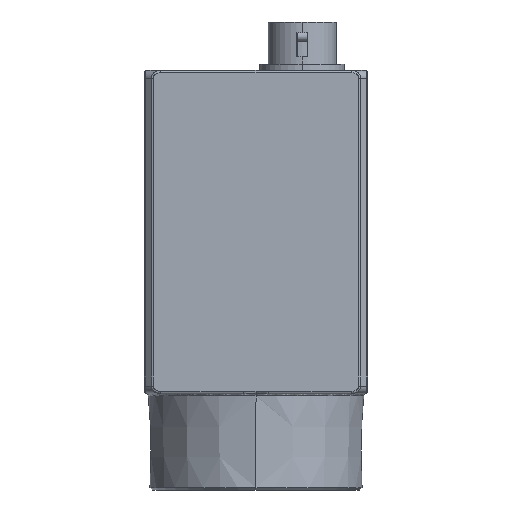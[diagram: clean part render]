
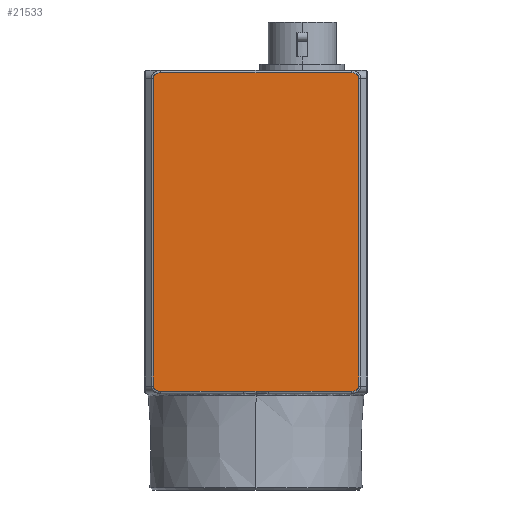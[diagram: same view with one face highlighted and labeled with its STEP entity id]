
A CAD part, left-side view. The second image highlights one B-rep face of the part: STEP entity #21533.
In plain terms, the highlighted planar face has unit normal (-1, 0, 0).
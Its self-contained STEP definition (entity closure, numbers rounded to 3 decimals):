
#625=CARTESIAN_POINT('',(-14.5,0.,
-5.205));
#626=CARTESIAN_POINT('',(-14.5,0.547,
-5.205));
#627=CARTESIAN_POINT('',(-14.5,1.095,-5.202));
#628=CARTESIAN_POINT('',(-14.5,1.644,-5.202));
#630=DIRECTION('',(0.,1.,0.));
#631=VECTOR('',#630,10.742);
#632=CARTESIAN_POINT('',(-14.5,1.644,-5.202));
#633=LINE('',#632,#631);
#634=DIRECTION('',(0.,0.,1.));
#635=VECTOR('',#634,40.);
#636=CARTESIAN_POINT('',(-14.5,13.376,-4.5));
#637=LINE('',#636,#635);
#638=CARTESIAN_POINT('',(-14.5,13.376,35.5));
#639=CARTESIAN_POINT('',(-14.5,13.375,35.573));
#640=CARTESIAN_POINT('',(-14.5,13.345,35.712));
#641=CARTESIAN_POINT('',(-14.5,13.204,35.915));
#642=CARTESIAN_POINT('',(-14.5,12.995,36.065));
#643=CARTESIAN_POINT('',(-14.5,12.72,36.173));
#644=CARTESIAN_POINT('',(-14.5,12.503,36.198));
#645=CARTESIAN_POINT('',(-14.5,12.386,36.2));
#647=DIRECTION('',(0.,-1.,0.));
#648=VECTOR('',#647,24.772);
#649=CARTESIAN_POINT('',(-14.5,12.386,36.2));
#650=LINE('',#649,#648);
#651=CARTESIAN_POINT('',(-14.5,-12.386,36.2));
#652=CARTESIAN_POINT('',(-14.5,-12.503,36.198));
#653=CARTESIAN_POINT('',(-14.5,-12.719,36.173));
#654=CARTESIAN_POINT('',(-14.5,-12.998,36.063));
#655=CARTESIAN_POINT('',(-14.5,-13.209,35.91));
#656=CARTESIAN_POINT('',(-14.5,-13.348,35.704));
#657=CARTESIAN_POINT('',(-14.5,-13.376,35.57));
#658=CARTESIAN_POINT('',(-14.5,-13.376,35.5));
#671=CARTESIAN_POINT('',(-14.5,0.,
-5.205));
#672=CARTESIAN_POINT('',(-14.5,-0.194,
-5.205));
#673=CARTESIAN_POINT('',(-14.5,-0.575,
-5.203));
#674=CARTESIAN_POINT('',(-14.5,-1.101,
-5.205));
#675=CARTESIAN_POINT('',(-14.5,-1.463,
-5.201));
#676=CARTESIAN_POINT('',(-14.5,-1.644,
-5.201));
#683=DIRECTION('',(0.,-1.,0.));
#684=VECTOR('',#683,10.742);
#685=CARTESIAN_POINT('',(-14.5,-1.644,
-5.201));
#686=LINE('',#685,#684);
#732=CARTESIAN_POINT('',(-14.5,-12.386,
-5.2));
#733=CARTESIAN_POINT('',(-14.5,-12.504,
-5.198));
#734=CARTESIAN_POINT('',(-14.5,-12.721,
-5.173));
#735=CARTESIAN_POINT('',(-14.5,-13.001,
-5.062));
#736=CARTESIAN_POINT('',(-14.5,-13.211,
-4.908));
#737=CARTESIAN_POINT('',(-14.5,-13.349,
-4.702));
#738=CARTESIAN_POINT('',(-14.5,-13.376,-4.569));
#739=CARTESIAN_POINT('',(-14.5,-13.376,-4.5));
#746=DIRECTION('',(0.,0.,1.));
#747=VECTOR('',#746,40.);
#748=CARTESIAN_POINT('',(-14.5,-13.376,-4.5));
#749=LINE('',#748,#747);
#1344=CARTESIAN_POINT('',(-14.5,13.376,-4.5));
#1345=CARTESIAN_POINT('',(-14.5,13.377,-4.568));
#1346=CARTESIAN_POINT('',(-14.5,13.349,-4.701));
#1347=CARTESIAN_POINT('',(-14.5,13.213,-4.906));
#1348=CARTESIAN_POINT('',(-14.5,13.003,-5.061));
#1349=CARTESIAN_POINT('',(-14.5,12.722,-5.173));
#1350=CARTESIAN_POINT('',(-14.5,12.504,-5.198));
#1351=CARTESIAN_POINT('',(-14.5,12.386,-5.2));
#15700=CARTESIAN_POINT('',(-14.5,12.386,36.2));
#15701=VERTEX_POINT('',#15700);
#15702=CARTESIAN_POINT('',(-14.5,13.376,
35.5));
#15703=VERTEX_POINT('',#15702);
#15704=CARTESIAN_POINT('',(-14.5,-12.386,36.2));
#15705=VERTEX_POINT('',#15704);
#15707=CARTESIAN_POINT('',(-14.5,-13.376,35.5));
#15708=VERTEX_POINT('',#15707);
#15751=CARTESIAN_POINT('',(-14.5,1.644,
-5.2));
#15752=VERTEX_POINT('',#15751);
#15753=VERTEX_POINT('',#625);
#15756=CARTESIAN_POINT('',(-14.5,12.386,-5.2));
#15757=VERTEX_POINT('',#15756);
#15768=CARTESIAN_POINT('',(-14.5,13.376,-4.5));
#15769=VERTEX_POINT('',#15768);
#15770=VERTEX_POINT('',#732);
#15771=VERTEX_POINT('',#739);
#15772=VERTEX_POINT('',#676);
#21510=CARTESIAN_POINT('',(-14.5,0.,15.498));
#21511=DIRECTION('',(1.,0.,0.));
#21512=DIRECTION('',(0.,-1.,0.));
#21513=AXIS2_PLACEMENT_3D('',#21510,#21511,#21512);
#21514=PLANE('',#21513);
#21516=ORIENTED_EDGE('',*,*,#21515,.F.);
#21517=ORIENTED_EDGE('',*,*,#21357,.T.);
#21518=ORIENTED_EDGE('',*,*,#21373,.T.);
#21520=ORIENTED_EDGE('',*,*,#21519,.F.);
#21521=ORIENTED_EDGE('',*,*,#21503,.T.);
#21522=ORIENTED_EDGE('',*,*,#20836,.T.);
#21523=ORIENTED_EDGE('',*,*,#20851,.T.);
#21524=ORIENTED_EDGE('',*,*,#20910,.T.);
#21526=ORIENTED_EDGE('',*,*,#21525,.F.);
#21528=ORIENTED_EDGE('',*,*,#21527,.F.);
#21530=ORIENTED_EDGE('',*,*,#21529,.F.);
#21531=EDGE_LOOP('',(#21516,#21517,#21518,#21520,#21521,#21522,#21523,#21524,
#21526,#21528,#21530));
#21532=FACE_OUTER_BOUND('',#21531,.F.);
#21533=ADVANCED_FACE('',(#21532),#21514,.F.);
#629=B_SPLINE_CURVE_WITH_KNOTS('',3,(#625,#626,#627,#628),.UNSPECIFIED.,.F.,.F.,
(4,4),(0.,1.),.UNSPECIFIED.);
#646=B_SPLINE_CURVE_WITH_KNOTS('',3,(#638,#639,#640,#641,#642,#643,#644,#645),
.UNSPECIFIED.,.F.,.F.,(4,1,1,1,1,4),(0.,0.2,0.4,0.6,0.8,1.),
.UNSPECIFIED.);
#659=B_SPLINE_CURVE_WITH_KNOTS('',3,(#651,#652,#653,#654,#655,#656,#657,#658),
.UNSPECIFIED.,.F.,.F.,(4,1,1,1,1,4),(0.,0.2,0.4,0.6,0.8,1.),
.UNSPECIFIED.);
#677=B_SPLINE_CURVE_WITH_KNOTS('',3,(#671,#672,#673,#674,#675,#676),
.UNSPECIFIED.,.F.,.F.,(4,1,1,4),(0.,0.333,0.667,1.),
.UNSPECIFIED.);
#740=B_SPLINE_CURVE_WITH_KNOTS('',3,(#732,#733,#734,#735,#736,#737,#738,#739),
.UNSPECIFIED.,.F.,.F.,(4,1,1,1,1,4),(0.,0.2,0.4,0.6,0.8,1.),
.UNSPECIFIED.);
#1352=B_SPLINE_CURVE_WITH_KNOTS('',3,(#1344,#1345,#1346,#1347,#1348,#1349,#1350,
#1351),.UNSPECIFIED.,.F.,.F.,(4,1,1,1,1,4),(0.,0.2,0.4,0.6,0.8,1.),
.UNSPECIFIED.);
#20836=EDGE_CURVE('',#15703,#15701,#646,.T.);
#20851=EDGE_CURVE('',#15701,#15705,#650,.T.);
#20910=EDGE_CURVE('',#15705,#15708,#659,.T.);
#21357=EDGE_CURVE('',#15753,#15752,#629,.T.);
#21373=EDGE_CURVE('',#15752,#15757,#633,.T.);
#21503=EDGE_CURVE('',#15769,#15703,#637,.T.);
#21515=EDGE_CURVE('',#15753,#15772,#677,.T.);
#21519=EDGE_CURVE('',#15769,#15757,#1352,.T.);
#21525=EDGE_CURVE('',#15771,#15708,#749,.T.);
#21527=EDGE_CURVE('',#15770,#15771,#740,.T.);
#21529=EDGE_CURVE('',#15772,#15770,#686,.T.);
